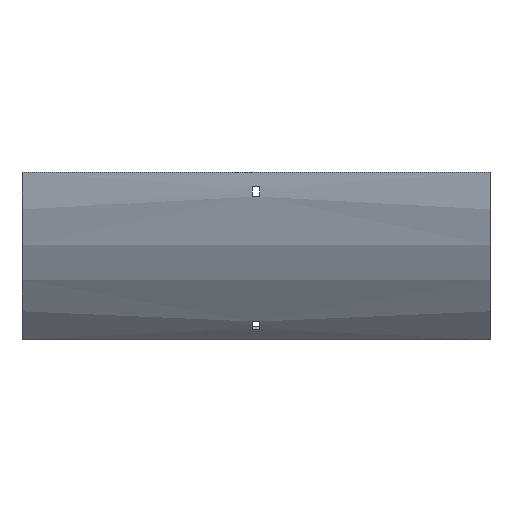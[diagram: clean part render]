
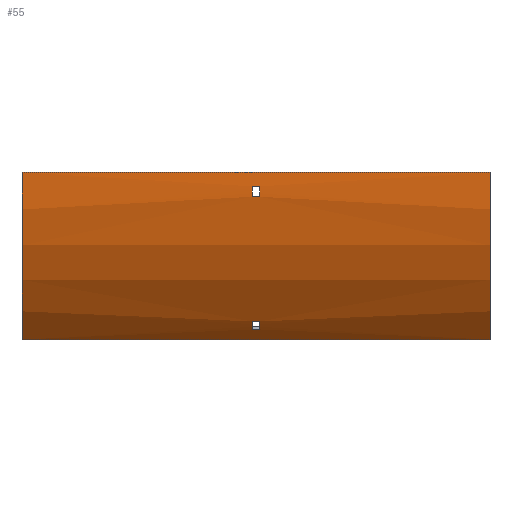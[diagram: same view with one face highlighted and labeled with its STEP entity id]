
A CAD part, front view. The second image highlights one B-rep face of the part: STEP entity #55.
In plain terms, the highlighted cylindrical face has radius 204 mm (diameter 408 mm), a partial arc.
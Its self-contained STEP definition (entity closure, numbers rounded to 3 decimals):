
#19 = CARTESIAN_POINT ( 'NONE',  ( -3.25, -52.485, -135.515 ) ) ;
#28 = CARTESIAN_POINT ( 'NONE',  ( -202., -44.25, -144.25 ) ) ;
#33 = CARTESIAN_POINT ( 'NONE',  ( -3.25, 100., 0. ) ) ;
#46 = EDGE_CURVE ( 'NONE', #625, #207, #543, .T. ) ;
#49 = EDGE_CURVE ( 'NONE', #885, #1280, #532, .T. ) ;
#55 = ADVANCED_FACE ( 'NONE', ( #643, #1317, #933 ), #1067, .T. ) ;
#84 = LINE ( 'NONE', #973, #284 ) ;
#91 = DIRECTION ( 'NONE',  ( 0., 0., -1. ) ) ;
#92 = DIRECTION ( 'NONE',  ( 0., 0., -1. ) ) ;
#93 = AXIS2_PLACEMENT_3D ( 'NONE', #602, #1125, #1392 ) ;
#98 = AXIS2_PLACEMENT_3D ( 'NONE', #676, #795, #288 ) ;
#138 = CIRCLE ( 'NONE', #461, 204. ) ;
#170 = CIRCLE ( 'NONE', #93, 204. ) ;
#207 = VERTEX_POINT ( 'NONE', #1187 ) ;
#212 = VERTEX_POINT ( 'NONE', #1075 ) ;
#221 = CARTESIAN_POINT ( 'NONE',  ( 3.25, -52.485, -135.515 ) ) ;
#225 = VECTOR ( 'NONE', #379, 1000. ) ;
#243 = VERTEX_POINT ( 'NONE', #1091 ) ;
#270 = CARTESIAN_POINT ( 'NONE',  ( 202., -52.485, -135.515 ) ) ;
#271 = EDGE_CURVE ( 'NONE', #483, #1381, #138, .T. ) ;
#284 = VECTOR ( 'NONE', #1368, 1000. ) ;
#286 = DIRECTION ( 'NONE',  ( 0., 0., -1. ) ) ;
#288 = DIRECTION ( 'NONE',  ( 0., 0., -1. ) ) ;
#314 = CIRCLE ( 'NONE', #98, 204. ) ;
#322 = VERTEX_POINT ( 'NONE', #853 ) ;
#336 = VECTOR ( 'NONE', #864, 1000. ) ;
#356 = VERTEX_POINT ( 'NONE', #592 ) ;
#363 = ORIENTED_EDGE ( 'NONE', *, *, #1250, .T. ) ;
#375 = ORIENTED_EDGE ( 'NONE', *, *, #1534, .F. ) ;
#379 = DIRECTION ( 'NONE',  ( -1., 0., 0. ) ) ;
#411 = DIRECTION ( 'NONE',  ( -1., 0., 0. ) ) ;
#461 = AXIS2_PLACEMENT_3D ( 'NONE', #33, #819, #536 ) ;
#475 = EDGE_LOOP ( 'NONE', ( #1482, #375, #1561, #1419 ) ) ;
#483 = VERTEX_POINT ( 'NONE', #1539 ) ;
#487 = EDGE_CURVE ( 'NONE', #1455, #483, #1402, .T. ) ;
#532 = LINE ( 'NONE', #270, #589 ) ;
#536 = DIRECTION ( 'NONE',  ( 0., 0., 1. ) ) ;
#543 = LINE ( 'NONE', #1306, #1407 ) ;
#575 = ORIENTED_EDGE ( 'NONE', *, *, #1591, .F. ) ;
#588 = ORIENTED_EDGE ( 'NONE', *, *, #271, .T. ) ;
#589 = VECTOR ( 'NONE', #790, 1000. ) ;
#592 = CARTESIAN_POINT ( 'NONE',  ( 202., -44.25, -144.25 ) ) ;
#602 = CARTESIAN_POINT ( 'NONE',  ( 3.25, 100., 0. ) ) ;
#625 = VERTEX_POINT ( 'NONE', #792 ) ;
#643 = FACE_OUTER_BOUND ( 'NONE', #737, .T. ) ;
#668 = CIRCLE ( 'NONE', #1266, 204. ) ;
#676 = CARTESIAN_POINT ( 'NONE',  ( -3.25, 100., 0. ) ) ;
#680 = CARTESIAN_POINT ( 'NONE',  ( 3.25, 100., 0. ) ) ;
#689 = LINE ( 'NONE', #813, #1429 ) ;
#712 = DIRECTION ( 'NONE',  ( 1., 0., 0. ) ) ;
#737 = EDGE_LOOP ( 'NONE', ( #363, #1649, #575, #761 ) ) ;
#761 = ORIENTED_EDGE ( 'NONE', *, *, #46, .T. ) ;
#790 = DIRECTION ( 'NONE',  ( 1., 0., 0. ) ) ;
#792 = CARTESIAN_POINT ( 'NONE',  ( 202., -104., 0. ) ) ;
#795 = DIRECTION ( 'NONE',  ( 1., 0., 0. ) ) ;
#813 = CARTESIAN_POINT ( 'NONE',  ( 202., -58.333, -128.634 ) ) ;
#819 = DIRECTION ( 'NONE',  ( -1., 0., 0. ) ) ;
#853 = CARTESIAN_POINT ( 'NONE',  ( -3.25, -58.333, -128.634 ) ) ;
#864 = DIRECTION ( 'NONE',  ( -1., 0., 0. ) ) ;
#885 = VERTEX_POINT ( 'NONE', #19 ) ;
#895 = ORIENTED_EDGE ( 'NONE', *, *, #1471, .T. ) ;
#912 = CIRCLE ( 'NONE', #1464, 204. ) ;
#923 = ORIENTED_EDGE ( 'NONE', *, *, #487, .T. ) ;
#933 = FACE_BOUND ( 'NONE', #475, .T. ) ;
#973 = CARTESIAN_POINT ( 'NONE',  ( 202., -103.647, -12. ) ) ;
#1000 = EDGE_LOOP ( 'NONE', ( #923, #588, #1686, #895 ) ) ;
#1039 = EDGE_CURVE ( 'NONE', #322, #885, #314, .T. ) ;
#1042 = AXIS2_PLACEMENT_3D ( 'NONE', #1581, #411, #1459 ) ;
#1067 = CYLINDRICAL_SURFACE ( 'NONE', #1042, 204. ) ;
#1070 = LINE ( 'NONE', #1108, #336 ) ;
#1072 = DIRECTION ( 'NONE',  ( -1., 0., 0. ) ) ;
#1075 = CARTESIAN_POINT ( 'NONE',  ( 3.25, -58.333, -128.634 ) ) ;
#1091 = CARTESIAN_POINT ( 'NONE',  ( 3.25, -103.647, -12. ) ) ;
#1108 = CARTESIAN_POINT ( 'NONE',  ( 202., -44.25, -144.25 ) ) ;
#1125 = DIRECTION ( 'NONE',  ( -1., 0., 0. ) ) ;
#1139 = CARTESIAN_POINT ( 'NONE',  ( -202., 100., 0. ) ) ;
#1187 = CARTESIAN_POINT ( 'NONE',  ( -202., -104., 0. ) ) ;
#1218 = CARTESIAN_POINT ( 'NONE',  ( 3.25, -102.916, -21. ) ) ;
#1231 = EDGE_CURVE ( 'NONE', #1381, #243, #84, .T. ) ;
#1243 = DIRECTION ( 'NONE',  ( 1., 0., 0. ) ) ;
#1250 = EDGE_CURVE ( 'NONE', #207, #1525, #668, .T. ) ;
#1266 = AXIS2_PLACEMENT_3D ( 'NONE', #1139, #1243, #92 ) ;
#1280 = VERTEX_POINT ( 'NONE', #221 ) ;
#1306 = CARTESIAN_POINT ( 'NONE',  ( 202., -104., 0. ) ) ;
#1317 = FACE_BOUND ( 'NONE', #1000, .T. ) ;
#1355 = DIRECTION ( 'NONE',  ( -1., 0., 0. ) ) ;
#1363 = CARTESIAN_POINT ( 'NONE',  ( 202., 100., 0. ) ) ;
#1368 = DIRECTION ( 'NONE',  ( 1., 0., 0. ) ) ;
#1370 = AXIS2_PLACEMENT_3D ( 'NONE', #1363, #712, #91 ) ;
#1381 = VERTEX_POINT ( 'NONE', #1531 ) ;
#1392 = DIRECTION ( 'NONE',  ( 0., 0., 1. ) ) ;
#1402 = LINE ( 'NONE', #1555, #225 ) ;
#1407 = VECTOR ( 'NONE', #1072, 1000. ) ;
#1419 = ORIENTED_EDGE ( 'NONE', *, *, #49, .F. ) ;
#1429 = VECTOR ( 'NONE', #1355, 1000. ) ;
#1452 = DIRECTION ( 'NONE',  ( 1., 0., 0. ) ) ;
#1455 = VERTEX_POINT ( 'NONE', #1218 ) ;
#1459 = DIRECTION ( 'NONE',  ( 0., 0., 1. ) ) ;
#1464 = AXIS2_PLACEMENT_3D ( 'NONE', #680, #1452, #286 ) ;
#1471 = EDGE_CURVE ( 'NONE', #243, #1455, #912, .T. ) ;
#1482 = ORIENTED_EDGE ( 'NONE', *, *, #1039, .F. ) ;
#1525 = VERTEX_POINT ( 'NONE', #28 ) ;
#1531 = CARTESIAN_POINT ( 'NONE',  ( -3.25, -103.647, -12. ) ) ;
#1534 = EDGE_CURVE ( 'NONE', #212, #322, #689, .T. ) ;
#1539 = CARTESIAN_POINT ( 'NONE',  ( -3.25, -102.916, -21. ) ) ;
#1555 = CARTESIAN_POINT ( 'NONE',  ( 202., -102.916, -21. ) ) ;
#1561 = ORIENTED_EDGE ( 'NONE', *, *, #1689, .F. ) ;
#1568 = EDGE_CURVE ( 'NONE', #356, #1525, #1070, .T. ) ;
#1581 = CARTESIAN_POINT ( 'NONE',  ( 202., 100., 0. ) ) ;
#1591 = EDGE_CURVE ( 'NONE', #625, #356, #1650, .T. ) ;
#1649 = ORIENTED_EDGE ( 'NONE', *, *, #1568, .F. ) ;
#1650 = CIRCLE ( 'NONE', #1370, 204. ) ;
#1686 = ORIENTED_EDGE ( 'NONE', *, *, #1231, .T. ) ;
#1689 = EDGE_CURVE ( 'NONE', #1280, #212, #170, .T. ) ;
